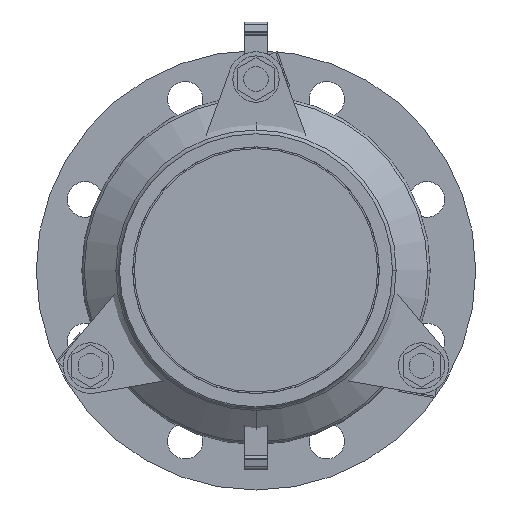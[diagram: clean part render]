
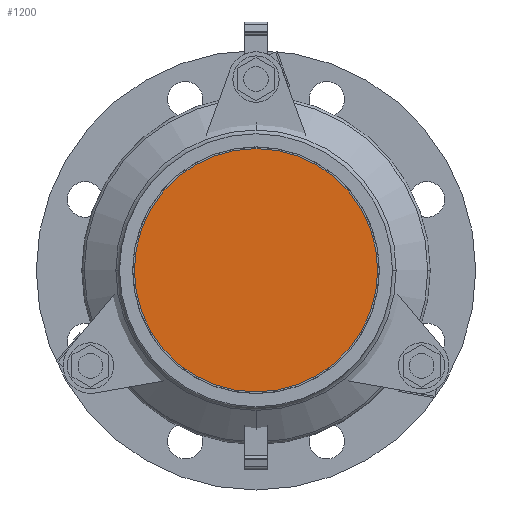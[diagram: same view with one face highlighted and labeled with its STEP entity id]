
A CAD part, left-side view. The second image highlights one B-rep face of the part: STEP entity #1200.
In plain terms, the highlighted planar face has unit normal (-1, 0, 0).
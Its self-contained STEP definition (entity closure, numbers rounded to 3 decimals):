
#1200=ADVANCED_FACE('',(#2264),#2265,.T.);
#2264=FACE_OUTER_BOUND('',#3461,.T.);
#2265=PLANE('',#3462);
#3461=EDGE_LOOP('',(#5662,#5663));
#3462=AXIS2_PLACEMENT_3D('',#5664,#5665,#5666);
#5662=ORIENTED_EDGE('',*,*,#7280,.T.);
#5663=ORIENTED_EDGE('',*,*,#7060,.T.);
#5664=CARTESIAN_POINT('',(-61.5,0.0,0.0));
#5665=DIRECTION('',(-1.0,0.0,0.));
#5666=DIRECTION('',(0.,0.0,1.0));
#7060=EDGE_CURVE('',#8499,#8496,#8500,.T.);
#7280=EDGE_CURVE('',#8496,#8499,#8773,.T.);
#8496=VERTEX_POINT('',#10324);
#8499=VERTEX_POINT('',#10328);
#8500=CIRCLE('',#10329,88.5);
#8773=CIRCLE('',#10677,88.5);
#10324=CARTESIAN_POINT('',(-61.5,0.0,-88.5));
#10328=CARTESIAN_POINT('',(-61.5,0.,88.5));
#10329=AXIS2_PLACEMENT_3D('',#11713,#11714,#11715);
#10677=AXIS2_PLACEMENT_3D('',#11977,#11978,#11979);
#11713=CARTESIAN_POINT('',(-61.5,0.0,0.0));
#11714=DIRECTION('',(-1.0,0.0,0.));
#11715=DIRECTION('',(0.,0.0,-1.0));
#11977=CARTESIAN_POINT('',(-61.5,0.0,0.0));
#11978=DIRECTION('',(-1.0,0.0,0.));
#11979=DIRECTION('',(0.,0.0,-1.0));
